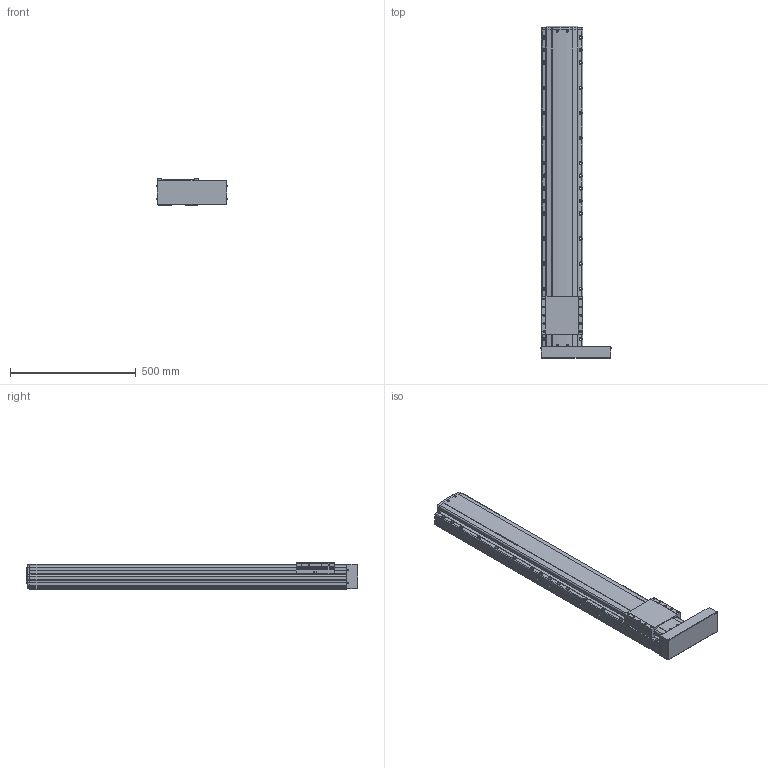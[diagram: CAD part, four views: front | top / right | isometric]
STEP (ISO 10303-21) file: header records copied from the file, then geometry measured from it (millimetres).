
FILE_DESCRIPTION(('STEP AP214'),'1');
FILE_NAME('Z:/Web/3D/PSA165/STP/PSA165-1000 (3D)/PSA165ㅁㅁ-1000PR.stp','2014-06-24T10:27:20',(' '),(' '),'Spatial InterOp 3D',' ',' ');
FILE_SCHEMA(('automotive_design'));
Length unit declared in the file: millimetre
Products named in the file (23): 스크루 : Round - M4.0 x 12.0; RRCV-PA160; BASE; 스크루 : Round - M4.0 x 10.0; RN15; Screw 20; SLIDE; FRCV; MTPL; 스크루 : Round - M3.0 x 6.0
Bounding box: 281.93 x 1320.8 x 104 mm (x, y, z)
Volume: 18707758.5 mm3; surface area: 1157077.4 mm2
Topology: 23 solids, 23 shells, 2127 faces, 5753 edges, 3657 vertices
Faces by surface type: plane 1108, cylinder 725, cone 209, sphere 44, bspline 25, torus 16
Entity records: 87027 total; most frequent: CARTESIAN_POINT 15838, DIRECTION 11339, ORIENTED_EDGE 11182, EDGE_CURVE 5591, AXIS2_PLACEMENT_3D 3852, VERTEX_POINT 3657, LINE 3635, VECTOR 3635
